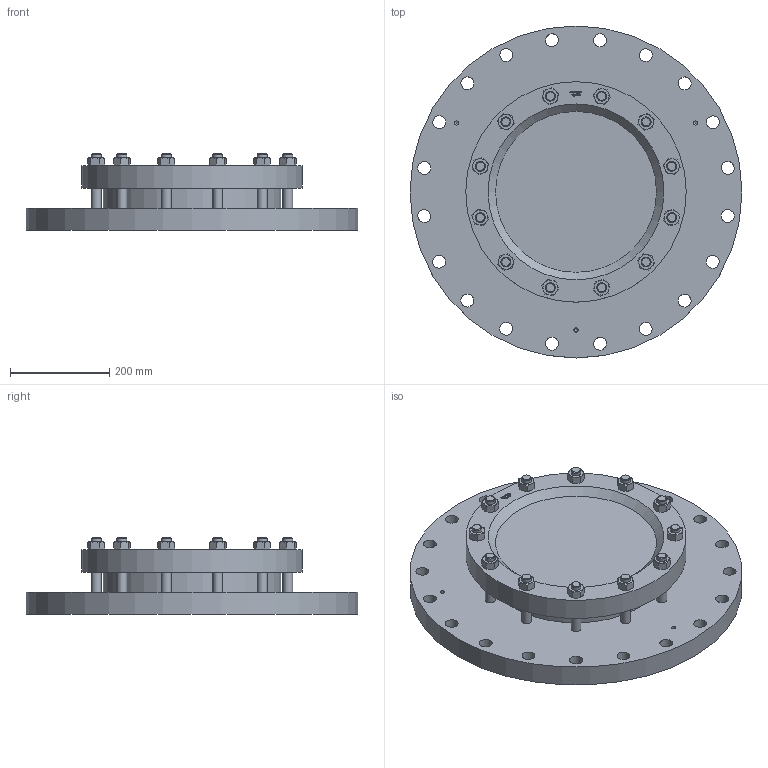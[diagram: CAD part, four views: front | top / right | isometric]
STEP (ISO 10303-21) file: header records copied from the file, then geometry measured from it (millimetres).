
FILE_DESCRIPTION(/* description */ (''),/* implementation_level */ '2;1');
FILE_NAME(/* name */ 'W:\Konstruktion_ACI\325\_STEP\325-500-10.stp',/* time_stamp */ '2022-03-02T17:16:28+01:00',/* author */ ('koslowksi'),/* organization */ (''),/* preprocessor_version */ 'ST-DEVELOPER v16.1',/* originating_system */ 'Autodesk Inventor 2016',/* authorisation */ '');
FILE_SCHEMA (('AUTOMOTIVE_DESIGN { 1 0 10303 214 3 1 1 }'));
Length unit declared in the file: millimetre
Products named in the file (1): 325-500-10
Bounding box: 670 x 670 x 154 mm (x, y, z)
Volume: 25160535 mm3; surface area: 1124243.2 mm2
Topology: 1 solids, 1 shells, 549 faces, 1376 edges, 875 vertices
Faces by surface type: plane 231, cone 160, bspline 108, cylinder 50
Full cylindrical faces by diameter (mm): 8.376 x3, 20 x24, 26 x20, 359 x1, 445 x1, 670 x1
Entity records: 16554 total; most frequent: CARTESIAN_POINT 4645, ORIENTED_EDGE 2550, DIRECTION 1913, EDGE_CURVE 1275, VERTEX_POINT 840, EDGE_LOOP 725, AXIS2_PLACEMENT_3D 700, FACE_OUTER_BOUND 549
